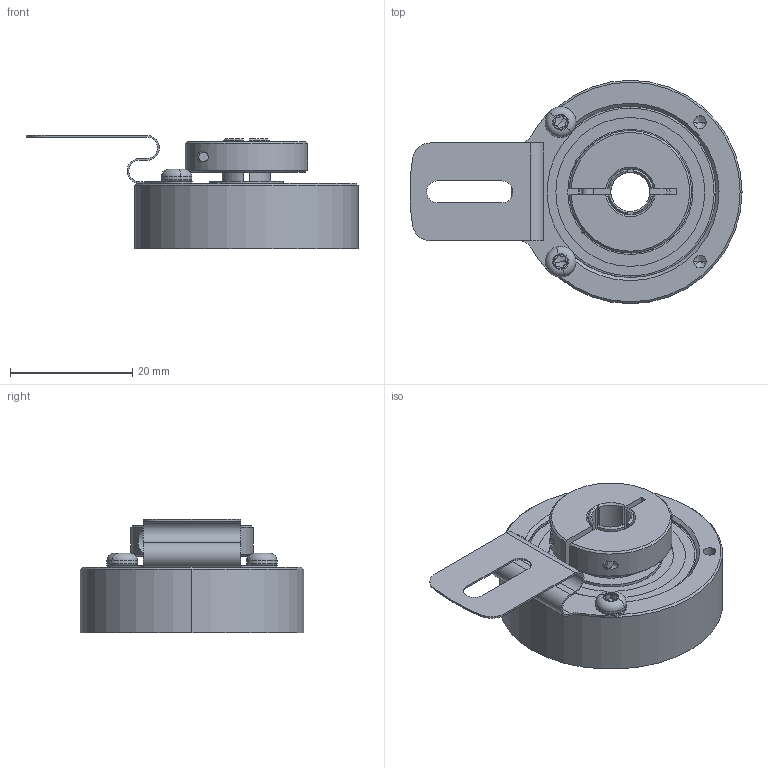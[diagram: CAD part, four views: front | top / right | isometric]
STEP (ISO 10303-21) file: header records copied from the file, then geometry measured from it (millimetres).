
FILE_DESCRIPTION (( 'STEP AP214' ), '1' );
FILE_NAME ('drawing-ucd-vra0-q3a-n.STEP', '2017-01-27T09:42:05', ( '' ), ( '' ), 'SwSTEP 2.0', 'SolidWorks 2015', '' );
FILE_SCHEMA (( 'AUTOMOTIVE_DESIGN' ));
Length unit declared in the file: millimetre
Products named in the file (1): drawing-ucd-vra0-q3a-n
Bounding box: 54.25 x 36.5 x 18.5 mm (x, y, z)
Volume: 10213.3 mm3; surface area: 13179.6 mm2
Topology: 20 solids, 20 shells, 411 faces, 1031 edges, 637 vertices
Faces by surface type: cylinder 148, plane 112, cone 71, bspline 56, torus 24
Entity records: 18929 total; most frequent: CARTESIAN_POINT 4630, DIRECTION 2041, ORIENTED_EDGE 1974, EDGE_CURVE 987, AXIS2_PLACEMENT_3D 874, VERTEX_POINT 637, CIRCLE 518, EDGE_LOOP 472
